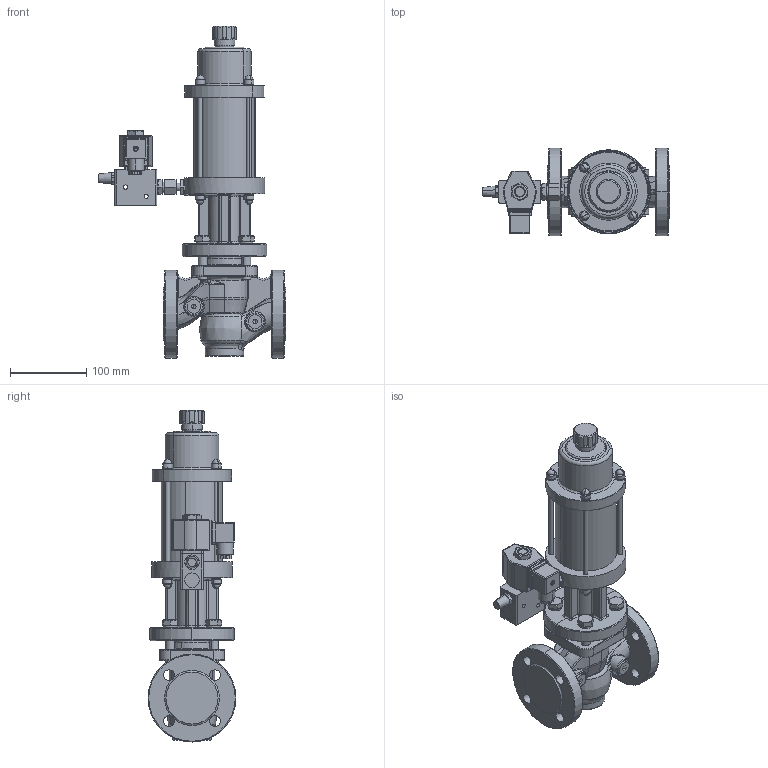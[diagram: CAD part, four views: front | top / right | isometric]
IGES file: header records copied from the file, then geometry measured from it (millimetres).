
Global section: file name: No Iges File Name specified; native system: AutoDesk Inventor R12.0; preprocessor: AutoDesk Inventor Iges Exporter R12.0; date: 20100322.135546; units: millimetre
Bounding box: 244.99 x 115 x 434.05 mm (x, y, z)
Volume: 2461198.8 mm3; surface area: 269848.6 mm2
Topology: 1 solids, 1 shells, 1291 faces, 3307 edges, 1986 vertices
Faces by surface type: plane 494, bspline 274, cylinder 232, cone 117, revolution 75, torus 67, sphere 32
